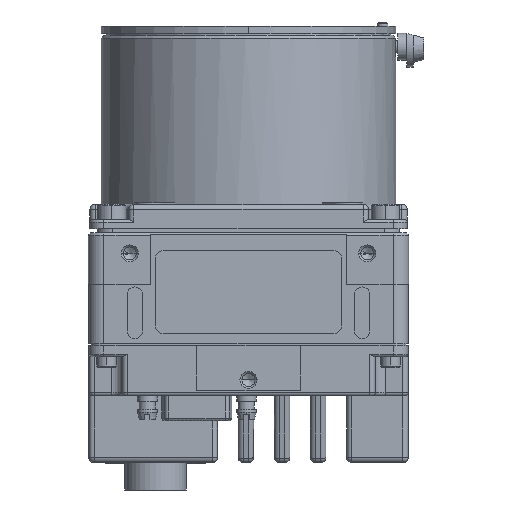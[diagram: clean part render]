
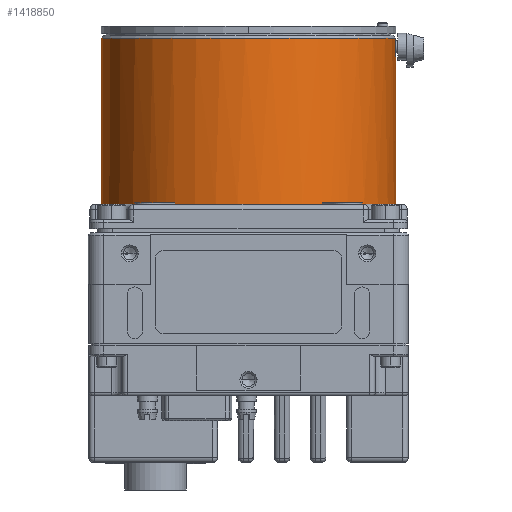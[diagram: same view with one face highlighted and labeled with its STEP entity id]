
A CAD part, front view. The second image highlights one B-rep face of the part: STEP entity #1418850.
In plain terms, the highlighted cylindrical face has radius 28.5 mm (diameter 57 mm), a partial arc.
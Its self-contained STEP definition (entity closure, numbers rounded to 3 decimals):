
#870=CARTESIAN_POINT('',(0.,0.,-16.174));
#880=DIRECTION('',(0.,0.,1.));
#890=DIRECTION('',(1.,0.,0.));
#900=AXIS2_PLACEMENT_3D('',#870,#880,#890);
#910=CYLINDRICAL_SURFACE('',#900,28.5);
#1020=CARTESIAN_POINT('',(0.,0.,-16.774));
#1030=DIRECTION('',(0.,0.,1.));
#1040=DIRECTION('',(1.,0.,0.));
#1050=AXIS2_PLACEMENT_3D('',#1020,#1030,#1040);
#1060=CIRCLE('',#1050,28.5);
#1070=CARTESIAN_POINT('',(28.5,0.,-16.774));
#1080=VERTEX_POINT('',#1070);
#1110=CARTESIAN_POINT('',(28.5,0.,-16.174));
#1120=DIRECTION('',(0.,0.,1.));
#1130=VECTOR('',#1120,1.);
#1140=LINE('',#1110,#1130);
#1150=CARTESIAN_POINT('',(28.5,0.,11.176));
#1160=VERTEX_POINT('',#1150);
#1170=EDGE_CURVE('',#1080,#1160,#1140,.T.);
#1190=CARTESIAN_POINT('',(28.5,0.,12.426));
#1200=DIRECTION('',(1.,0.,0.));
#1210=DIRECTION('',(0.,-1.,0.));
#1220=AXIS2_PLACEMENT_3D('',#1190,#1200,#1210);
#1230=CYLINDRICAL_SURFACE('',#1220,1.25);
#1240=CARTESIAN_POINT('',(0.,0.,11.726));
#1250=DIRECTION('',(0.,0.,1.));
#1260=DIRECTION('',(1.,0.,0.));
#1270=AXIS2_PLACEMENT_3D('',#1240,#1250,#1260);
#1280=CYLINDRICAL_SURFACE('',#1270,28.5);
#1560=CARTESIAN_POINT('',(0.,0.,15.426));
#1570=DIRECTION('',(0.,0.,1.));
#1580=DIRECTION('',(1.,0.,0.));
#1590=AXIS2_PLACEMENT_3D('',#1560,#1570,#1580);
#1600=CIRCLE('',#1590,28.5);
#1610=CARTESIAN_POINT('',(-28.5,0.,15.426)
);
#1620=VERTEX_POINT('',#1610);
#1650=CARTESIAN_POINT('',(-28.5,0.,-16.174
));
#1660=DIRECTION('',(0.,0.,1.));
#1670=VECTOR('',#1660,1.);
#1680=LINE('',#1650,#1670);
#1690=CARTESIAN_POINT('',(-28.5,0.,-16.774
));
#1700=VERTEX_POINT('',#1690);
#1710=EDGE_CURVE('',#1700,#1620,#1680,.T.);
#2590=CARTESIAN_POINT('',(-19.144,-21.113,-16.474));
#2600=VERTEX_POINT('',#2590);
#2630=CARTESIAN_POINT('',(0.,0.,-16.474));
#2640=DIRECTION('',(0.,0.,1.));
#2650=DIRECTION('',(1.,0.,0.));
#2660=AXIS2_PLACEMENT_3D('',#2630,#2640,#2650);
#2670=CIRCLE('',#2660,28.5);
#2680=CARTESIAN_POINT('',(-14.3,-24.653,-16.474));
#2690=VERTEX_POINT('',#2680);
#2700=EDGE_CURVE('',#2600,#2690,#2670,.T.);
#3340=CARTESIAN_POINT('',(-19.144,-21.113,-16.774));
#3350=VERTEX_POINT('',#3340);
#3360=EDGE_CURVE('',#1700,#3350,#1060,.T.);
#3630=CARTESIAN_POINT('',(-14.3,-24.653,-16.774));
#3640=VERTEX_POINT('',#3630);
#3670=CARTESIAN_POINT('',(14.3,-24.653,-16.774));
#3680=VERTEX_POINT('',#3670);
#3690=EDGE_CURVE('',#3640,#3680,#1060,.T.);
#3960=CARTESIAN_POINT('',(19.144,-21.113,-16.774));
#3970=VERTEX_POINT('',#3960);
#4000=EDGE_CURVE('',#3970,#1080,#1060,.T.);
#5830=CARTESIAN_POINT('',(14.3,-24.653,-16.474));
#5840=VERTEX_POINT('',#5830);
#5870=CARTESIAN_POINT('',(0.,0.,-16.474));
#5880=DIRECTION('',(0.,0.,1.));
#5890=DIRECTION('',(1.,0.,0.));
#5900=AXIS2_PLACEMENT_3D('',#5870,#5880,#5890);
#5910=CIRCLE('',#5900,28.5);
#5920=CARTESIAN_POINT('',(19.144,-21.113,-16.474));
#5930=VERTEX_POINT('',#5920);
#5940=EDGE_CURVE('',#5840,#5930,#5910,.T.);
#25150=CARTESIAN_POINT('',(28.473,-1.25,12.426));
#25160=VERTEX_POINT('',#25150);
#25190=CARTESIAN_POINT('',(28.473,-1.25,11.726));
#25200=DIRECTION('',(0.,0.,1.));
#25210=VECTOR('',#25200,1.);
#25220=LINE('',#25190,#25210);
#25230=CARTESIAN_POINT('',(28.473,-1.25,15.426));
#25240=VERTEX_POINT('',#25230);
#25250=EDGE_CURVE('',#25160,#25240,#25220,.T.);
#25480=CARTESIAN_POINT('',(28.5,0.,11.176
));
#25490=CARTESIAN_POINT('',(28.5,-0.163,11.176));
#25500=CARTESIAN_POINT('',(28.499,-0.326,
11.208));
#25510=CARTESIAN_POINT('',(28.496,-0.477,
11.27));
#25520=CARTESIAN_POINT('',(28.493,-0.628,
11.333));
#25530=CARTESIAN_POINT('',(28.49,-0.767,
11.426));
#25540=CARTESIAN_POINT('',(28.486,-0.883,
11.541));
#25550=CARTESIAN_POINT('',(28.483,-0.999,
11.657));
#25560=CARTESIAN_POINT('',(28.479,-1.092,
11.796));
#25570=CARTESIAN_POINT('',(28.477,-1.155,
11.947));
#25580=CARTESIAN_POINT('',(28.474,-1.217,
12.098));
#25590=CARTESIAN_POINT('',(28.473,-1.25,12.262));
#25600=CARTESIAN_POINT('',(28.473,-1.25,12.426));
#25610=B_SPLINE_CURVE_WITH_KNOTS('',3,(#25480,#25490,#25500,#25510,
#25520,#25530,#25540,#25550,#25560,#25570,#25580,#25590,#25600),
.UNSPECIFIED.,.F.,.F.,(4,3,3,3,4),(0.,0.489,
0.981,1.472,1.964),.UNSPECIFIED.);
#25620=SURFACE_CURVE('',#25610,(#1230,#1280),.CURVE_3D.);
#25630=EDGE_CURVE('',#1160,#25160,#25620,.T.);
#40490=EDGE_CURVE('',#1620,#25240,#1600,.T.);
#163150=CARTESIAN_POINT('',(-14.3,-24.653,11.726))
;
#163160=DIRECTION('',(0.,0.,1.));
#163170=VECTOR('',#163160,1.);
#163180=LINE('',#163150,#163170);
#163190=EDGE_CURVE('',#3640,#2690,#163180,.T.);
#163560=CARTESIAN_POINT('',(14.3,-24.653,11.726));
#163570=DIRECTION('',(0.,0.,1.));
#163580=VECTOR('',#163570,1.);
#163590=LINE('',#163560,#163580);
#163600=EDGE_CURVE('',#3680,#5840,#163590,.T.);
#164070=CARTESIAN_POINT('',(-19.144,-21.113,11.726));
#164080=DIRECTION('',(0.,0.,1.));
#164090=VECTOR('',#164080,1.);
#164100=LINE('',#164070,#164090);
#164110=EDGE_CURVE('',#3350,#2600,#164100,.T.);
#164220=CARTESIAN_POINT('',(19.144,-21.113,11.726));
#164230=DIRECTION('',(0.,0.,1.));
#164240=VECTOR('',#164230,1.);
#164250=LINE('',#164220,#164240);
#164260=EDGE_CURVE('',#3970,#5930,#164250,.T.);
#1418690=ORIENTED_EDGE('',*,*,#25250,.T.);
#1418700=ORIENTED_EDGE('',*,*,#25630,.T.);
#1418710=ORIENTED_EDGE('',*,*,#1170,.T.);
#1418720=ORIENTED_EDGE('',*,*,#4000,.T.);
#1418730=ORIENTED_EDGE('',*,*,#164260,.F.);
#1418740=ORIENTED_EDGE('',*,*,#5940,.T.);
#1418750=ORIENTED_EDGE('',*,*,#163600,.T.);
#1418760=ORIENTED_EDGE('',*,*,#3690,.T.);
#1418770=ORIENTED_EDGE('',*,*,#163190,.F.);
#1418780=ORIENTED_EDGE('',*,*,#2700,.T.);
#1418790=ORIENTED_EDGE('',*,*,#164110,.T.);
#1418800=ORIENTED_EDGE('',*,*,#3360,.T.);
#1418810=ORIENTED_EDGE('',*,*,#1710,.F.);
#1418820=ORIENTED_EDGE('',*,*,#40490,.F.);
#1418830=EDGE_LOOP('',(#1418820,#1418810,#1418800,#1418790,#1418780,
#1418770,#1418760,#1418750,#1418740,#1418730,#1418720,#1418710,#1418700,
#1418690));
#1418840=FACE_OUTER_BOUND('',#1418830,.T.);
#1418850=ADVANCED_FACE('',(#1418840),#910,.T.);
